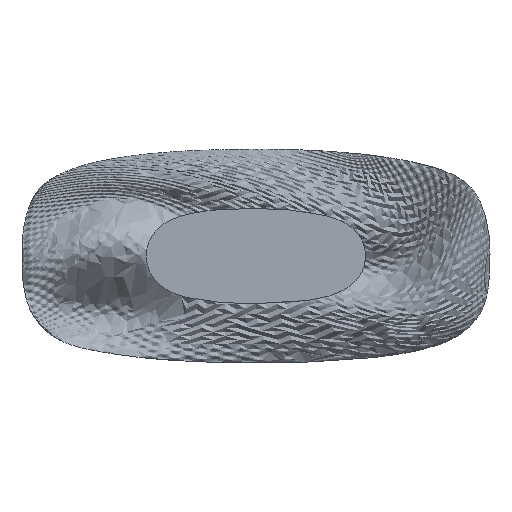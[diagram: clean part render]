
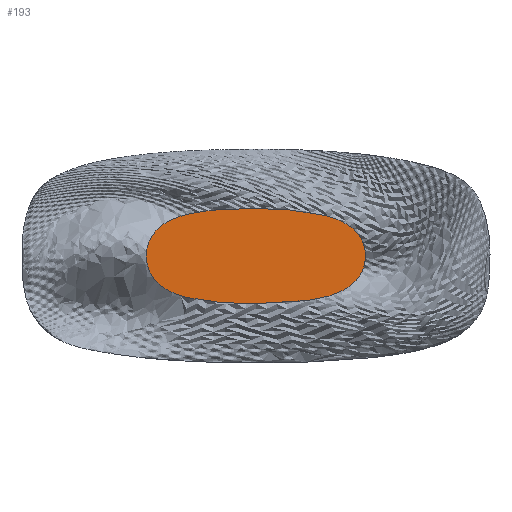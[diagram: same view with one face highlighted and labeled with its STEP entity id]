
A CAD part, top view. The second image highlights one B-rep face of the part: STEP entity #193.
In plain terms, the highlighted free-form (B-spline) face has degree [1, 1] with [2, 2] control points.
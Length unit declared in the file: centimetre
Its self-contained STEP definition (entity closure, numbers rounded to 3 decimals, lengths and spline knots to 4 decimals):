
#193=ADVANCED_FACE('',(#271),#1224,.T.);
#271=FACE_OUTER_BOUND('',#349,.T.);
#349=EDGE_LOOP('',(#429,#430,#431,#432));
#429=ORIENTED_EDGE('',*,*,#828,.T.);
#430=ORIENTED_EDGE('',*,*,#829,.T.);
#431=ORIENTED_EDGE('',*,*,#831,.T.);
#432=ORIENTED_EDGE('',*,*,#830,.T.);
#828=EDGE_CURVE('',#1055,#1056,#1264,.T.);
#829=EDGE_CURVE('',#1056,#1057,#1265,.T.);
#830=EDGE_CURVE('',#1058,#1055,#1266,.T.);
#831=EDGE_CURVE('',#1057,#1058,#1267,.T.);
#1055=VERTEX_POINT('',#9938);
#1056=VERTEX_POINT('',#9939);
#1057=VERTEX_POINT('',#9940);
#1058=VERTEX_POINT('',#9941);
#1224=B_SPLINE_SURFACE_WITH_KNOTS('',1,1,((#1922,#1923),(#1924,#1925)),.UNSPECIFIED.,
.F.,.F.,.F.,(2,2),(2,2),(-40.7509,42.3266),(-36.1223,
0.0414),.UNSPECIFIED.);
#1264=B_SPLINE_CURVE_WITH_KNOTS('',3,(#1471,#1472,#1473,#1474,#1475,#1476,
#1477,#1478,#1479,#1480,#1481,#1482,#1483,#1484,#1485,#1486),.UNSPECIFIED.,
.F.,.F.,(4,2,2,2,2,2,2,4),(-1.,-0.8723,-0.7484,-0.687,
-0.6255,-0.5628,-0.5,-0.4998),
.UNSPECIFIED.);
#1265=B_SPLINE_CURVE_WITH_KNOTS('',3,(#1487,#1488,#1489,#1490,#1491,#1492,
#1493,#1494,#1495,#1496,#1497,#1498),.UNSPECIFIED.,.F.,.F.,(4,2,2,2,2,4),
(-0.4998,-0.4371,-0.3742,-0.2516,
-0.1278,0.),.UNSPECIFIED.);
#1266=B_SPLINE_CURVE_WITH_KNOTS('',3,(#1499,#1500,#1501,#1502,#1503,#1504,
#1505,#1506,#1507,#1508,#1509,#1510,#1511,#1512,#1513,#1514,#1515,#1516,
#1517,#1518,#1519,#1520),.UNSPECIFIED.,.F.,.F.,(4,2,2,2,2,2,2,2,2,2,4),(-0.9985,
-0.7586,-0.6951,-0.6317,-0.5663,
-0.501,-0.4353,-0.3696,-0.3064,
-0.2431,0.),.UNSPECIFIED.);
#1267=B_SPLINE_CURVE_WITH_KNOTS('',1,(#1521,#1522),.UNSPECIFIED.,.F.,.F.,
(2,2),(-0.0001,0.147),.UNSPECIFIED.);
#1471=CARTESIAN_POINT('',(-0.787,18.023,-0.0017));
#1472=CARTESIAN_POINT('',(-4.9082,18.0458,-0.0017));
#1473=CARTESIAN_POINT('',(-9.0169,17.9549,-0.0017));
#1474=CARTESIAN_POINT('',(-17.1152,17.38,-0.0017));
#1475=CARTESIAN_POINT('',(-21.4099,16.89,-0.0017));
#1476=CARTESIAN_POINT('',(-27.3085,15.4904,-0.0017));
#1477=CARTESIAN_POINT('',(-29.2716,14.8997,-0.0017));
#1478=CARTESIAN_POINT('',(-33.092,13.2558,-0.0017));
#1479=CARTESIAN_POINT('',(-34.9158,12.2098,-0.0017));
#1480=CARTESIAN_POINT('',(-38.0875,9.4784,-0.0017));
#1481=CARTESIAN_POINT('',(-39.3618,7.8135,-0.0017));
#1482=CARTESIAN_POINT('',(-41.0758,4.1384,-0.0017));
#1483=CARTESIAN_POINT('',(-41.5292,2.1185,-0.0017));
#1484=CARTESIAN_POINT('',(-41.5326,-0.0099,-0.0017));
#1485=CARTESIAN_POINT('',(-41.5326,-0.0181,-0.0017));
#1486=CARTESIAN_POINT('',(-41.5326,-0.0262,-0.0017));
#1487=CARTESIAN_POINT('',(-41.5326,-0.0262,-0.0017));
#1488=CARTESIAN_POINT('',(-41.5326,-2.1438,-0.0017));
#1489=CARTESIAN_POINT('',(-41.0847,-4.1545,-0.0017));
#1490=CARTESIAN_POINT('',(-39.3777,-7.8059,-0.0017));
#1491=CARTESIAN_POINT('',(-38.1034,-9.4594,-0.0017));
#1492=CARTESIAN_POINT('',(-33.3536,-13.5245,-0.0017));
#1493=CARTESIAN_POINT('',(-29.2511,-14.9989,-0.0017));
#1494=CARTESIAN_POINT('',(-21.4188,-16.8726,-0.0017));
#1495=CARTESIAN_POINT('',(-17.1175,-17.3786,-0.0017));
#1496=CARTESIAN_POINT('',(-9.0212,-17.9837,-0.0017));
#1497=CARTESIAN_POINT('',(-4.9102,-18.0917,-0.0017));
#1498=CARTESIAN_POINT('',(-0.7872,-18.0946,0.));
#1499=CARTESIAN_POINT('',(-0.6401,-18.0945,-0.0017));
#1500=CARTESIAN_POINT('',(6.9555,-18.0943,-0.0017));
#1501=CARTESIAN_POINT('',(16.9232,-17.714,-0.0017));
#1502=CARTESIAN_POINT('',(26.6082,-15.5458,-0.0017));
#1503=CARTESIAN_POINT('',(28.613,-14.9774,-0.0017));
#1504=CARTESIAN_POINT('',(32.5791,-13.3753,-0.0017));
#1505=CARTESIAN_POINT('',(34.4854,-12.352,-0.0017));
#1506=CARTESIAN_POINT('',(37.8363,-9.6533,-0.0017));
#1507=CARTESIAN_POINT('',(39.1994,-7.9836,-0.0017));
#1508=CARTESIAN_POINT('',(41.0306,-4.2653,-0.0017));
#1509=CARTESIAN_POINT('',(41.5162,-2.2071,-0.0017));
#1510=CARTESIAN_POINT('',(41.5169,2.1578,-0.0017));
#1511=CARTESIAN_POINT('',(41.0131,4.2574,-0.0017));
#1512=CARTESIAN_POINT('',(39.1364,7.9411,-0.0017));
#1513=CARTESIAN_POINT('',(37.7589,9.5659,-0.0017));
#1514=CARTESIAN_POINT('',(34.3771,12.1964,-0.0017));
#1515=CARTESIAN_POINT('',(32.4515,13.1923,-0.0017));
#1516=CARTESIAN_POINT('',(28.4542,14.757,-0.0017));
#1517=CARTESIAN_POINT('',(26.4206,15.3181,-0.0017));
#1518=CARTESIAN_POINT('',(16.7574,17.4749,-0.0017));
#1519=CARTESIAN_POINT('',(6.9018,17.9807,-0.0017));
#1520=CARTESIAN_POINT('',(-0.787,18.023,-0.0017));
#1521=CARTESIAN_POINT('',(-0.7872,-18.0946,0.));
#1522=CARTESIAN_POINT('',(-0.6401,-18.0945,-0.0017));
#1922=CARTESIAN_POINT('',(-41.5379,-18.0993,-0.0017));
#1923=CARTESIAN_POINT('',(-41.5379,18.0644,-0.0017));
#1924=CARTESIAN_POINT('',(41.5396,-18.0993,-0.0017));
#1925=CARTESIAN_POINT('',(41.5396,18.0644,-0.0017));
#9938=CARTESIAN_POINT('',(-0.787,18.023,-0.0017));
#9939=CARTESIAN_POINT('',(-41.5326,-0.0262,-0.0017));
#9940=CARTESIAN_POINT('',(-0.7872,-18.0946,0.));
#9941=CARTESIAN_POINT('',(-0.6401,-18.0945,-0.0017));
